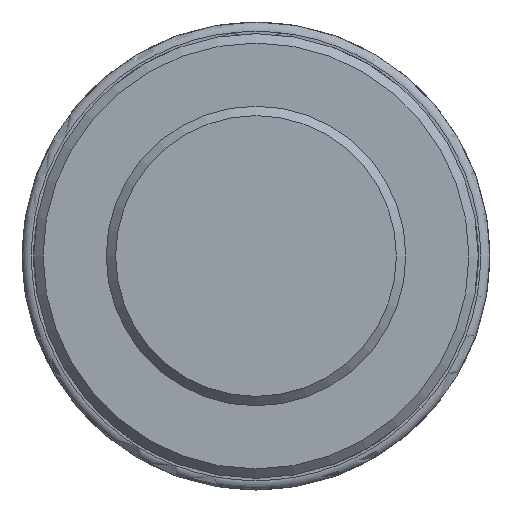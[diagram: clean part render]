
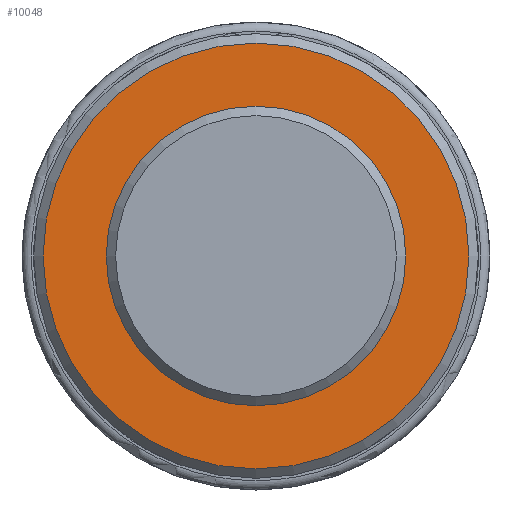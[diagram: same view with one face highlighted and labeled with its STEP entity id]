
A CAD part, front view. The second image highlights one B-rep face of the part: STEP entity #10048.
In plain terms, the highlighted planar face has unit normal (0, -1, 0) as drawn and (0, 1, 0) by its records, which use the part's own axes.
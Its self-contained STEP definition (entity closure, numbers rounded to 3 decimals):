
#73=CIRCLE('',#10381,45.5);
#1596=FACE_OUTER_BOUND('',#2204,.T.);
#2204=EDGE_LOOP('',(#9257));
#4860=VERTEX_POINT('',#18692);
#6329=EDGE_CURVE('',#4860,#4860,#73,.T.);
#9257=ORIENTED_EDGE('',*,*,#6329,.F.);
#9511=PLANE('',#10384);
#10048=ADVANCED_FACE('',(#1596),#9511,.T.);
#10381=AXIS2_PLACEMENT_3D('',#18693,#11740,#11741);
#10384=AXIS2_PLACEMENT_3D('',#18931,#11746,#11747);
#11740=DIRECTION('center_axis',(0.,-1.,0.));
#11741=DIRECTION('ref_axis',(1.,0.,0.));
#11746=DIRECTION('center_axis',(0.,1.,0.));
#11747=DIRECTION('ref_axis',(0.,0.,1.));
#18692=CARTESIAN_POINT('',(-45.5,37.5,0.));
#18693=CARTESIAN_POINT('Origin',(0.,37.5,0.));
#18931=CARTESIAN_POINT('Origin',(0.,37.5,0.));
